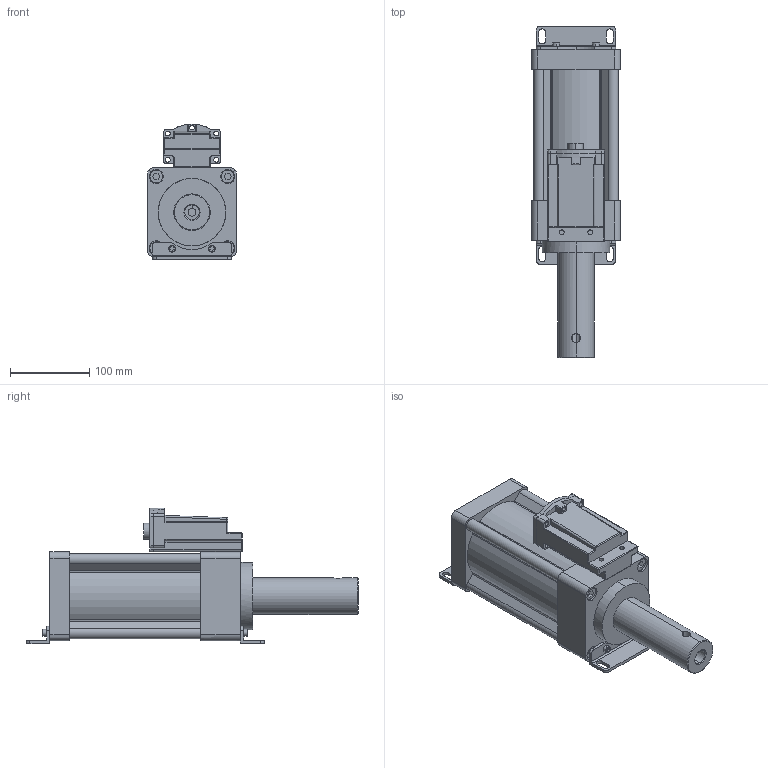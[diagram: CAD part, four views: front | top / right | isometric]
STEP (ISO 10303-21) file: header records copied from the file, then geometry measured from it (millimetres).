
FILE_DESCRIPTION (( 'STEP AP203' ), '1' );
FILE_NAME ('MHA1011N70.STEP', '2016-03-19T03:47:04', ( 'WIN' ), ( '' ), 'SwSTEP 2.0', 'SolidWorks 2014', '' );
FILE_SCHEMA (( 'CONFIG_CONTROL_DESIGN' ));
Length unit declared in the file: millimetre
Products named in the file (1): MHA1011N70
Bounding box: 112 x 418 x 170.97 mm (x, y, z)
Surface area: 346803.1 mm2 (no closed solid volume)
Topology: 0 solids, 6 shells, 455 faces, 1155 edges, 740 vertices
Faces by surface type: plane 220, cylinder 200, cone 20, sphere 8, torus 5, bspline 2
Entity records: 14308 total; most frequent: CARTESIAN_POINT 2974, DIRECTION 2428, ORIENTED_EDGE 2263, EDGE_CURVE 1143, AXIS2_PLACEMENT_3D 864, VERTEX_POINT 740, VECTOR 700, LINE 700
